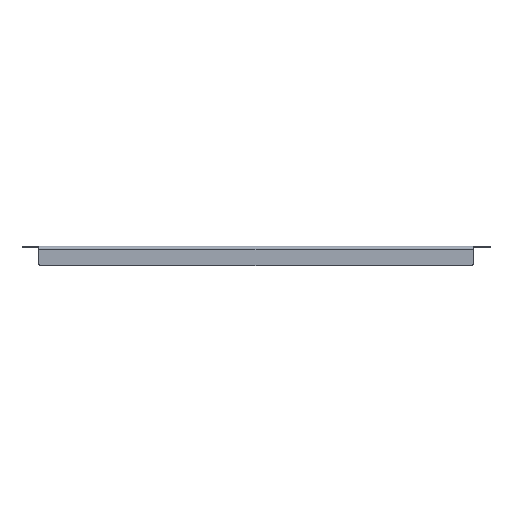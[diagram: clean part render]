
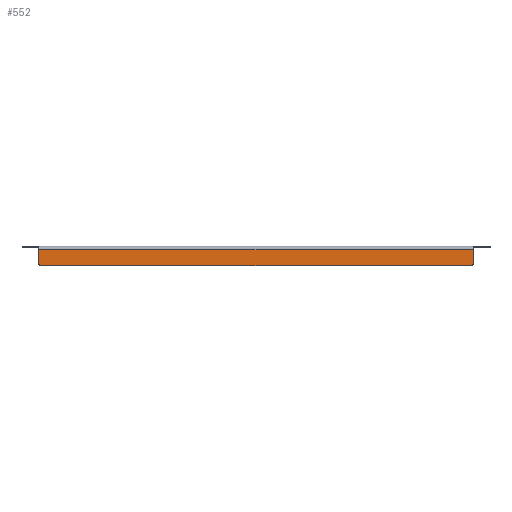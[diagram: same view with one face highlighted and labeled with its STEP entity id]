
A CAD part, left-side view. The second image highlights one B-rep face of the part: STEP entity #552.
In plain terms, the highlighted planar face has unit normal (-1, 0, 0).
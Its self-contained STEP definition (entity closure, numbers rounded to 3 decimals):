
#552=ADVANCED_FACE('',(#4520),#4522,.T.);
#4520=FACE_BOUND('',#4521,.T.);
#4521=EDGE_LOOP('',(#7567,#7568,#7569,#7570,#7571,#7572));
#4522=PLANE('',#4523);
#4523=AXIS2_PLACEMENT_3D('',#4524,#4525,#4526);
#4524=CARTESIAN_POINT('',(-100.,0.,98.773));
#4525=DIRECTION('',(-1.,0.,0.));
#4526=DIRECTION('',(0.,1.,0.));
#7567=ORIENTED_EDGE('',*,*,#9108,.F.);
#7568=ORIENTED_EDGE('',*,*,#9109,.T.);
#7569=ORIENTED_EDGE('',*,*,#9110,.F.);
#7570=ORIENTED_EDGE('',*,*,#9111,.T.);
#7571=ORIENTED_EDGE('',*,*,#9086,.T.);
#7572=ORIENTED_EDGE('',*,*,#9112,.T.);
#9086=EDGE_CURVE('',#11576,#11577,#11578,.T.);
#9108=EDGE_CURVE('',#11612,#11613,#11614,.F.);
#9109=EDGE_CURVE('',#11612,#11615,#11616,.T.);
#9110=EDGE_CURVE('',#11617,#11615,#11618,.F.);
#9111=EDGE_CURVE('',#11617,#11576,#11619,.T.);
#9112=EDGE_CURVE('',#11577,#11613,#11620,.T.);
#11576=VERTEX_POINT('',#17524);
#11577=VERTEX_POINT('',#17525);
#11578=LINE('',#17526,#17527);
#11612=VERTEX_POINT('',#17612);
#11613=VERTEX_POINT('',#17613);
#11614=CIRCLE('',#17614,2.);
#11615=VERTEX_POINT('',#17618);
#11616=LINE('',#17619,#17620);
#11617=VERTEX_POINT('',#17622);
#11618=CIRCLE('',#17623,2.);
#11619=LINE('',#17627,#17628);
#11620=LINE('',#17630,#17631);
#17524=CARTESIAN_POINT('',(-100.,-206.5,-2.));
#17525=CARTESIAN_POINT('',(-100.,206.5,-2.));
#17526=CARTESIAN_POINT('',(-100.,-206.5,-2.));
#17527=VECTOR('',#17528,1.);
#17528=DIRECTION('',(0.,1.,0.));
#17612=CARTESIAN_POINT('',(-100.,204.5,-17.5));
#17613=CARTESIAN_POINT('',(-100.,206.5,-15.5));
#17614=AXIS2_PLACEMENT_3D('',#17615,#17616,#17617);
#17615=CARTESIAN_POINT('',(-100.,204.5,-15.5));
#17616=DIRECTION('',(-1.,0.,0.));
#17617=DIRECTION('',(0.,1.,0.));
#17618=CARTESIAN_POINT('',(-100.,-204.5,-17.5));
#17619=CARTESIAN_POINT('',(-100.,204.5,-17.5));
#17620=VECTOR('',#17621,1.);
#17621=DIRECTION('',(0.,-1.,0.));
#17622=CARTESIAN_POINT('',(-100.,-206.5,-15.5));
#17623=AXIS2_PLACEMENT_3D('',#17624,#17625,#17626);
#17624=CARTESIAN_POINT('',(-100.,-204.5,-15.5));
#17625=DIRECTION('',(-1.,0.,0.));
#17626=DIRECTION('',(0.,0.,-1.));
#17627=CARTESIAN_POINT('',(-100.,-206.5,-15.5));
#17628=VECTOR('',#17629,1.);
#17629=DIRECTION('',(0.,0.,1.));
#17630=CARTESIAN_POINT('',(-100.,206.5,-2.));
#17631=VECTOR('',#17632,1.);
#17632=DIRECTION('',(0.,0.,-1.));
